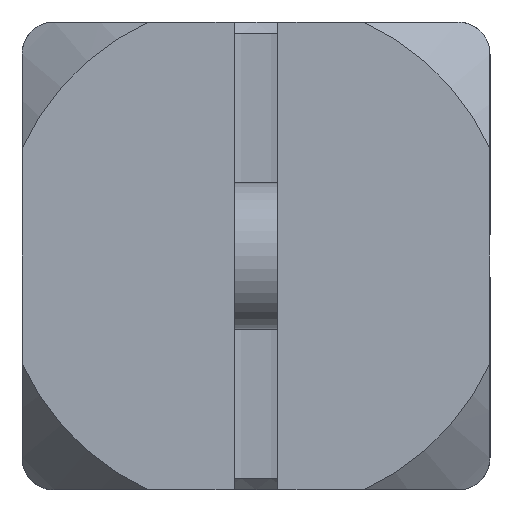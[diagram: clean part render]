
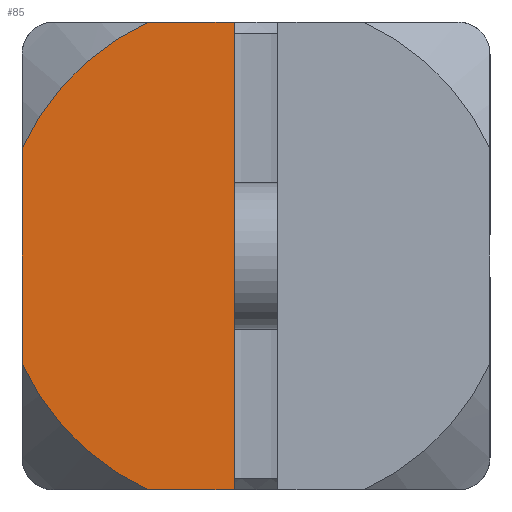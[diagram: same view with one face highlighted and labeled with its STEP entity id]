
A CAD part, left-side view. The second image highlights one B-rep face of the part: STEP entity #85.
In plain terms, the highlighted planar face has unit normal (-1, 0, 0).
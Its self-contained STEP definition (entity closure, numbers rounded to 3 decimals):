
#85 = ADVANCED_FACE( '', ( #185 ), #186, .F. );
#185 = FACE_OUTER_BOUND( '', #385, .T. );
#186 = PLANE( '', #386 );
#385 = EDGE_LOOP( '', ( #651, #652, #653, #654, #655, #656 ) );
#386 = AXIS2_PLACEMENT_3D( '', #657, #658, #659 );
#651 = ORIENTED_EDGE( '', *, *, #1259, .F. );
#652 = ORIENTED_EDGE( '', *, *, #1280, .F. );
#653 = ORIENTED_EDGE( '', *, *, #1281, .F. );
#654 = ORIENTED_EDGE( '', *, *, #1282, .T. );
#655 = ORIENTED_EDGE( '', *, *, #1283, .F. );
#656 = ORIENTED_EDGE( '', *, *, #1284, .T. );
#657 = CARTESIAN_POINT( '', ( -17., 8., 8. ) );
#658 = DIRECTION( '', ( 1., 0., 0. ) );
#659 = DIRECTION( '', ( 0., 0., -1. ) );
#1259 = EDGE_CURVE( '', #1491, #1483, #1493, .T. );
#1280 = EDGE_CURVE( '', #1531, #1491, #1532, .T. );
#1281 = EDGE_CURVE( '', #1533, #1531, #1534, .T. );
#1282 = EDGE_CURVE( '', #1533, #1535, #1536, .T. );
#1283 = EDGE_CURVE( '', #1537, #1535, #1538, .T. );
#1284 = EDGE_CURVE( '', #1537, #1483, #1539, .T. );
#1483 = VERTEX_POINT( '', #1867 );
#1491 = VERTEX_POINT( '', #1883 );
#1493 = LINE( '', #1886, #1887 );
#1531 = VERTEX_POINT( '', #2003 );
#1532 = LINE( '', #2004, #2005 );
#1533 = VERTEX_POINT( '', #2006 );
#1534 = CIRCLE( '', #2007, 8.8 );
#1535 = VERTEX_POINT( '', #2008 );
#1536 = LINE( '', #2009, #2010 );
#1537 = VERTEX_POINT( '', #2011 );
#1538 = CIRCLE( '', #2012, 8.8 );
#1539 = LINE( '', #2013, #2014 );
#1867 = CARTESIAN_POINT( '', ( -17., 0.75, -8. ) );
#1883 = CARTESIAN_POINT( '', ( -17., 0.75, 8. ) );
#1886 = CARTESIAN_POINT( '', ( -17., 0.75, 8. ) );
#1887 = VECTOR( '', #2501, 1000. );
#2003 = CARTESIAN_POINT( '', ( -17., 3.666, 8. ) );
#2004 = CARTESIAN_POINT( '', ( -17., 8., 8. ) );
#2005 = VECTOR( '', #2517, 1000. );
#2006 = CARTESIAN_POINT( '', ( -17., 8., 3.666 ) );
#2007 = AXIS2_PLACEMENT_3D( '', #2518, #2519, #2520 );
#2008 = CARTESIAN_POINT( '', ( -17., 8., -3.666 ) );
#2009 = CARTESIAN_POINT( '', ( -17., 8., 8. ) );
#2010 = VECTOR( '', #2521, 1000. );
#2011 = CARTESIAN_POINT( '', ( -17., 3.666, -8. ) );
#2012 = AXIS2_PLACEMENT_3D( '', #2522, #2523, #2524 );
#2013 = CARTESIAN_POINT( '', ( -17., 8., -8. ) );
#2014 = VECTOR( '', #2525, 1000. );
#2501 = DIRECTION( '', ( 0., 0., -1. ) );
#2517 = DIRECTION( '', ( 0., -1., 0. ) );
#2518 = CARTESIAN_POINT( '', ( -17., 0., 0. ) );
#2519 = DIRECTION( '', ( 1., 0., 0. ) );
#2520 = DIRECTION( '', ( 0., 0., -1. ) );
#2521 = DIRECTION( '', ( 0., 0., -1. ) );
#2522 = CARTESIAN_POINT( '', ( -17., 0., 0. ) );
#2523 = DIRECTION( '', ( 1., 0., 0. ) );
#2524 = DIRECTION( '', ( 0., 0., -1. ) );
#2525 = DIRECTION( '', ( 0., -1., 0. ) );
